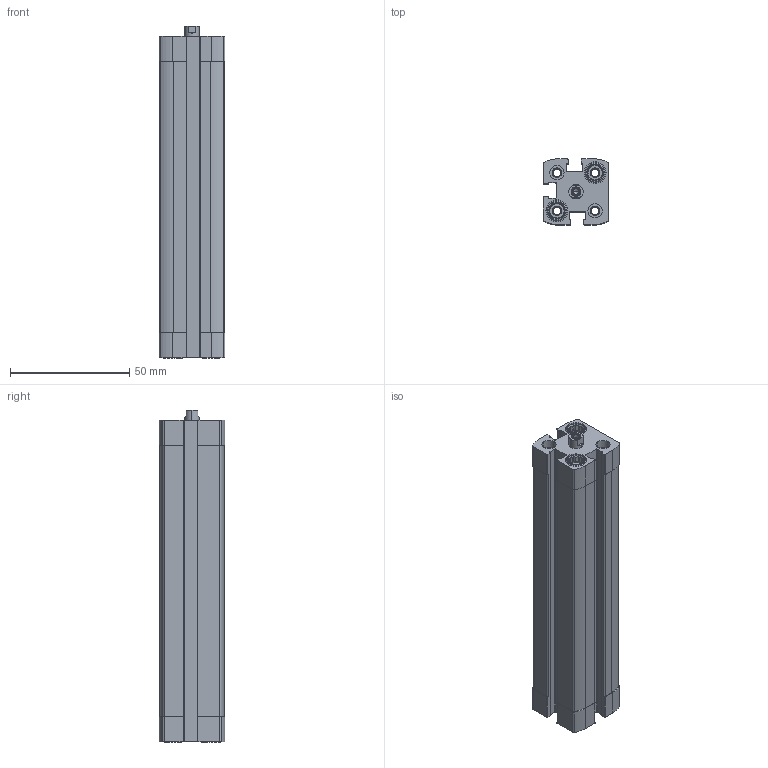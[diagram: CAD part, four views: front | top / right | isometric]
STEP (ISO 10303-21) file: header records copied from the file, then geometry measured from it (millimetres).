
FILE_DESCRIPTION (( 'STEP AP203' ), '1' );
FILE_NAME ('CCN12-100F.STEP', '2017-03-23T18:09:24', ( '' ), ( '' ), 'SwSTEP 2.0', 'SolidWorks 2016', '' );
FILE_SCHEMA (( 'CONFIG_CONTROL_DESIGN' ));
Length unit declared in the file: millimetre
Products named in the file (3): CCN12-100F---(Z); CCN12-100F_(KS); CCN12-100F
Assembly tree (2 placements, depth 2):
  CCN12-100F
    CCN12-100F---(Z)
    CCN12-100F_(KS)
Bounding box: 27.5 x 27.5 x 139.2 mm (x, y, z)
Volume: 67968.7 mm3; surface area: 35392.7 mm2
Topology: 2 solids, 2 shells, 363 faces, 942 edges, 617 vertices
Faces by surface type: plane 187, cylinder 134, cone 42
Entity records: 11541 total; most frequent: CARTESIAN_POINT 2219, DIRECTION 1900, ORIENTED_EDGE 1880, EDGE_CURVE 940, AXIS2_PLACEMENT_3D 690, VERTEX_POINT 617, LINE 520, VECTOR 520
